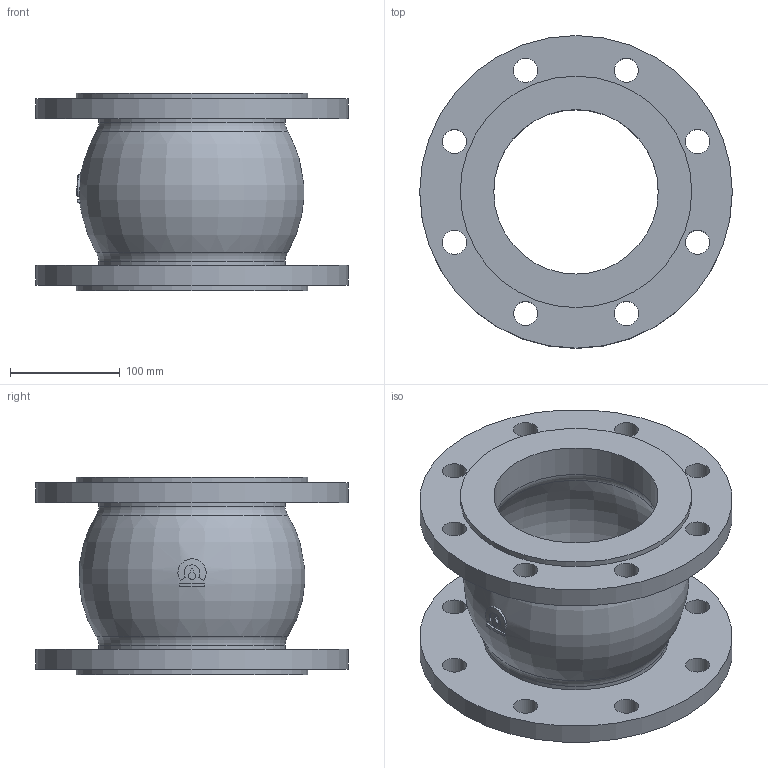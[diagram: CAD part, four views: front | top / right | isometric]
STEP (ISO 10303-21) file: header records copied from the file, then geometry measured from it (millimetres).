
FILE_DESCRIPTION(('STEP AP203'), '1');
FILE_NAME('Êîìïåíñàòîð KMS DN150 PN10_16', '', ('UNSPECIFIED'), ('UNSPECIFIED'), 'ASCON STEP Converter 1.6', 'ASCON Math Kernel', '');
FILE_SCHEMA(('CONFIG_CONTROL_DESIGN'));
Length unit declared in the file: millimetre
Bounding box: 285 x 285 x 180 mm (x, y, z)
Volume: 2526606.7 mm3; surface area: 402989.3 mm2
Topology: 1 solids, 1 shells, 53 faces, 124 edges, 80 vertices
Faces by surface type: cylinder 31, plane 13, torus 9
Full cylindrical faces by diameter (mm): 22 x16, 150 x2, 170 x2, 211 x2, 285 x2
Entity records: 2512 total; most frequent: CARTESIAN_POINT 875, DIRECTION 238, ORIENTED_EDGE 188, EDGE_LOOP 124, AXIS2_PLACEMENT_3D 112, EDGE_CURVE 94, VERTEX_POINT 80, FACE_BOUND 64
